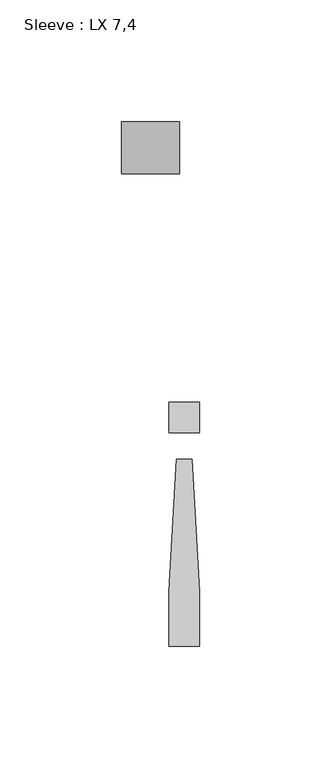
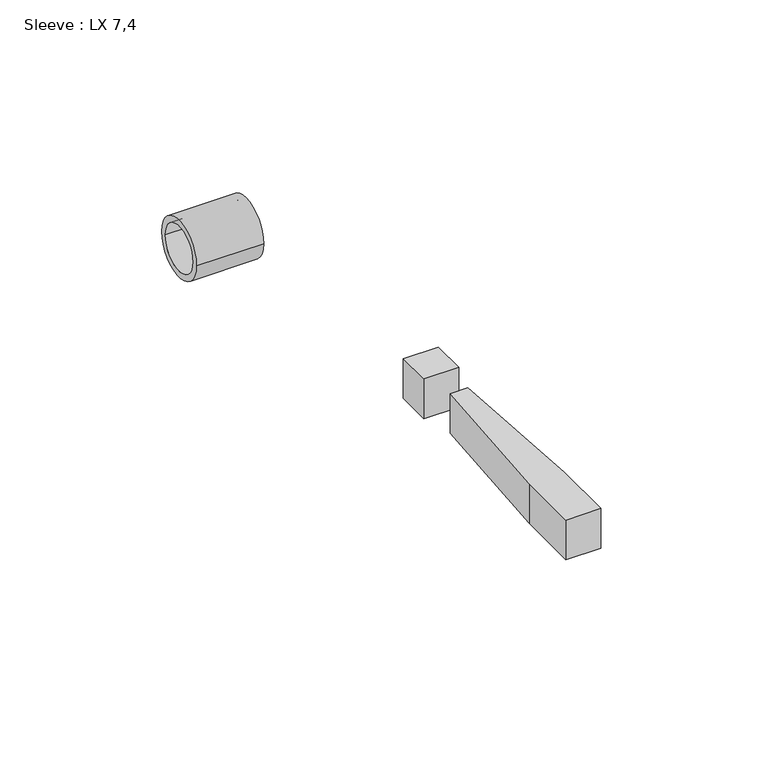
"""IFC4 building model written with IfcOpenShell, lengths in millimetres: pipe fitting geometry, Sleeve : LX 7,4."""

import ifcopenshell
import ifcopenshell.guid

model = None  # the IFC model being written
_history = None  # IfcOwnerHistory: only IFC2X3 demands one
_inside = {}  # id of a spatial element -> (the spatial element, [elements in it])
_under = {}  # id of a project, library or spatial element -> (it, [spatial elements below it])
_declared = {}  # id of a project -> (the project, [libraries it declares])
_typed = {}  # id of a type object -> (the type object, [elements of that type])
_made_of = {}  # id of a material, layer set ... -> (it, [elements and type objects made of it])


def new_model(schema):
    """Start an empty IFC model of exactly this schema.

    Asked for "IFC4X3", IfcOpenShell would pick the latest addendum, in which some entities
    have other attributes; the version numbers below select the first issue.
    IFC2X3 requires an IfcOwnerHistory on every rooted entity: one is made here for all.
    """
    global model, _history
    if schema == "IFC4X3":
        model = ifcopenshell.file(schema_version=(4, 3, 0, 0))
    else:
        model = ifcopenshell.file(schema=schema)
    _inside.clear()
    _under.clear()
    _declared.clear()
    _typed.clear()
    _made_of.clear()
    _history = None
    if model.schema == "IFC2X3":
        org = make("IfcOrganization", Name="unknown")
        user = make(
            "IfcPersonAndOrganization",
            ThePerson=make("IfcPerson", FamilyName="unknown"),
            TheOrganization=org,
        )
        app = make(
            "IfcApplication",
            ApplicationDeveloper=org,
            Version="unknown",
            ApplicationFullName="unknown",
            ApplicationIdentifier="unknown",
        )
        _history = make(
            "IfcOwnerHistory",
            OwningUser=user,
            OwningApplication=app,
            ChangeAction="ADDED",
            CreationDate=0,
        )
    return model


def make(cls, **values):
    """One entity of the class cls with the attributes given. An attribute that is None is left unset."""
    return model.create_entity(
        cls, **{name: value for name, value in values.items() if value is not None}
    )


def rooted(cls, **values):
    """An entity with a GlobalId (a new one), such as an element, a storey or a relation."""
    return make(cls, GlobalId=ifcopenshell.guid.new(), OwnerHistory=_history, **values)


def si_unit(unit_type, name, prefix=None):
    """IfcSIUnit, for example si_unit("LENGTHUNIT", "METRE", prefix="MILLI")."""
    return make("IfcSIUnit", UnitType=unit_type, Prefix=prefix, Name=name)


def assignment(units):
    """IfcUnitAssignment: the units of a project."""
    return None if units is None else make("IfcUnitAssignment", Units=units)


def point(xyz):
    """IfcCartesianPoint."""
    return None if xyz is None else make("IfcCartesianPoint", Coordinates=xyz)


def direction(xyz):
    """IfcDirection."""
    return None if xyz is None else make("IfcDirection", DirectionRatios=xyz)


def frame(location, z_axis=None, x_axis=None):
    """IfcAxis2Placement3D, a coordinate frame: its origin and axes. An axis left out is left unset."""
    return make(
        "IfcAxis2Placement3D",
        Location=point(location),
        Axis=direction(z_axis),
        RefDirection=direction(x_axis),
    )


def frame_2d(location, x_axis=None):
    """IfcAxis2Placement2D, a coordinate frame in the plane: its origin and x axis."""
    return make(
        "IfcAxis2Placement2D", Location=point(location), RefDirection=direction(x_axis)
    )


def origin():
    """The frame at (0, 0, 0) with its axes left unset."""
    return frame((0.0, 0.0, 0.0))


def origin_with_axes():
    """The frame at (0, 0, 0) with the z axis (0, 0, 1) and the x axis (1, 0, 0) written out."""
    return frame((0.0, 0.0, 0.0), z_axis=(0.0, 0.0, 1.0), x_axis=(1.0, 0.0, 0.0))


def origin_2d():
    """The frame at (0, 0) in the plane with its x axis left unset."""
    return frame_2d((0.0, 0.0))


def place(relative_to, where):
    """IfcLocalPlacement: puts the frame where relative to a parent placement (None: the world)."""
    return make(
        "IfcLocalPlacement", PlacementRelTo=relative_to, RelativePlacement=where
    )


def context(
    kind, dimensions, precision=None, world=None, true_north=None, identifier=None
):
    """IfcGeometricRepresentationContext, for example the 3D "Model" context."""
    return make(
        "IfcGeometricRepresentationContext",
        ContextIdentifier=identifier,
        ContextType=kind,
        CoordinateSpaceDimension=dimensions,
        Precision=precision,
        WorldCoordinateSystem=world,
        TrueNorth=true_north,
    )


def project(units=None, contexts=None):
    """IfcProject with its units and contexts."""
    return rooted(
        "IfcProject",
        Name="project",
        RepresentationContexts=contexts,
        UnitsInContext=assignment(units),
    )


def spatial(cls, under=None, at=None, **own):
    """A site, building, storey or space (cls), placed at a placement, below another one or the project."""
    s = rooted(cls, ObjectPlacement=at, **own)
    if under is not None:
        _under.setdefault(under.id(), (under, []))[1].append(s)
    return s


def polyline(points):
    """IfcPolyline through the points."""
    return make("IfcPolyline", Points=[point(p) for p in points])


def circle_curve(where, radius):
    """IfcCircle in the frame where."""
    return make("IfcCircle", Position=where, Radius=radius)


def trimmed(basis, trim1, trim2, sense, master):
    """IfcTrimmedCurve: the piece of a basis curve between two trims."""
    return make(
        "IfcTrimmedCurve",
        BasisCurve=basis,
        Trim1=trim1,
        Trim2=trim2,
        SenseAgreement=sense,
        MasterRepresentation=master,
    )


def segment(curve, same_sense, transition):
    """IfcCompositeCurveSegment."""
    return make(
        "IfcCompositeCurveSegment",
        Transition=transition,
        SameSense=same_sense,
        ParentCurve=curve,
    )


def composite_curve(segments, self_intersect=None):
    """IfcCompositeCurve: segments joined end to end."""
    return make("IfcCompositeCurve", Segments=segments, SelfIntersect=self_intersect)


def outline(outer, holes=None, kind="AREA"):
    """IfcArbitraryClosedProfileDef: a profile drawn as a closed curve; with holes, ...WithVoids."""
    if holes is None:
        return make("IfcArbitraryClosedProfileDef", ProfileType=kind, OuterCurve=outer)
    return make(
        "IfcArbitraryProfileDefWithVoids",
        ProfileType=kind,
        OuterCurve=outer,
        InnerCurves=holes,
    )


def extrude(swept, where, along, depth):
    """IfcExtrudedAreaSolid: the profile swept, set in the frame where, extruded along a direction by depth."""
    return make(
        "IfcExtrudedAreaSolid",
        SweptArea=swept,
        Position=where,
        ExtrudedDirection=direction(along),
        Depth=depth,
    )


def shape(context_of_items, identifier, shape_type, items):
    """IfcShapeRepresentation: the items that make up one representation, for example the "Body"."""
    return make(
        "IfcShapeRepresentation",
        ContextOfItems=context_of_items,
        RepresentationIdentifier=identifier,
        RepresentationType=shape_type,
        Items=items,
    )


def source(mapping_origin, context_of_items, identifier, shape_type, items):
    """IfcRepresentationMap: a shape defined once, which mapped items show again and again."""
    return make(
        "IfcRepresentationMap",
        MappingOrigin=mapping_origin,
        MappedRepresentation=shape(context_of_items, identifier, shape_type, items),
    )


def transform(
    local_origin,
    x_axis=None,
    y_axis=None,
    z_axis=None,
    scale=None,
    scale2=None,
    scale3=None,
    uniform=True,
):
    """IfcCartesianTransformationOperator3D, or its non-uniform kind. x_axis, y_axis, z_axis: its Axis1, 2, 3."""
    if uniform:
        return make(
            "IfcCartesianTransformationOperator3D",
            Axis1=direction(x_axis),
            Axis2=direction(y_axis),
            LocalOrigin=point(local_origin),
            Scale=scale,
            Axis3=direction(z_axis),
        )
    return make(
        "IfcCartesianTransformationOperator3DnonUniform",
        Axis1=direction(x_axis),
        Axis2=direction(y_axis),
        LocalOrigin=point(local_origin),
        Scale=scale,
        Axis3=direction(z_axis),
        Scale2=scale2,
        Scale3=scale3,
    )


def mapped(mapping_source, mapping_target):
    """IfcMappedItem: shows the shape of a source again, moved by a transform."""
    return make(
        "IfcMappedItem", MappingSource=mapping_source, MappingTarget=mapping_target
    )


def made_of(thing, what):
    """Note that an element or type object is made of a material, layer set ...; save() writes the relation."""
    if what is not None:
        _made_of.setdefault(what.id(), (what, []))[1].append(thing)
    return thing


def element(
    cls,
    number,
    at=None,
    inside=None,
    cuts=None,
    type_object=None,
    material=None,
    context=None,
    identifier="Body",
    shape_type=None,
    held_by="IfcProductDefinitionShape",
    body=None,
    shapes=None,
    **own,
):
    """One element of the class cls, such as IfcWall. Its Tag is "e" and its number.

    at: its placement. inside: the storey or other place that contains it. cuts: it is an
    opening in that element (IfcRelVoidsElement). A single representation is given by context,
    identifier, shape_type and body (its items); several are given by shapes. held_by: the class
    of the entity that holds the representations. save() writes the other relations.
    """
    e = rooted(cls, Tag="e%d" % number, ObjectPlacement=at, **own)
    if body is not None:
        shapes = [shape(context, identifier, shape_type, body)]
    if shapes is not None:
        e.Representation = make(held_by, Representations=shapes)
    if inside is not None:
        _inside.setdefault(inside.id(), (inside, []))[1].append(e)
    if cuts is not None:
        rooted(
            "IfcRelVoidsElement", RelatingBuildingElement=cuts, RelatedOpeningElement=e
        )
    if type_object is not None:
        _typed.setdefault(type_object.id(), (type_object, []))[1].append(e)
    return made_of(e, material)


def aggregate(whole, parts):
    """IfcRelAggregates: a whole, such as a stair, and the parts it consists of."""
    return rooted("IfcRelAggregates", RelatingObject=whole, RelatedObjects=parts)


def save(model, path):
    """Write the relations noted so far, then the file.

    IfcRelAggregates (storeys below a building ...), IfcRelContainedInSpatialStructure (elements
    in a storey), IfcRelDefinesByType, IfcRelAssociatesMaterial and IfcRelDeclares: one each for
    every whole, place, type object, material and project.
    """
    for whole, parts in _under.values():
        aggregate(whole, parts)
    for where, things in _inside.values():
        rooted(
            "IfcRelContainedInSpatialStructure",
            RelatedElements=things,
            RelatingStructure=where,
        )
    for kind, things in _typed.values():
        rooted("IfcRelDefinesByType", RelatedObjects=things, RelatingType=kind)
    for what, things in _made_of.values():
        rooted("IfcRelAssociatesMaterial", RelatedObjects=things, RelatingMaterial=what)
    for by, libraries in _declared.values():
        rooted("IfcRelDeclares", RelatingContext=by, RelatedDefinitions=libraries)
    model.write(path)


def sleeve_lx_7_4_d3d6d1e0(model_context):
    return source(origin(), model_context, "Body", "SweptSolid", [
        extrude(outline(composite_curve([segment(trimmed(circle_curve(origin_2d(), 10.75), [point((-10.75, 0.0))], [point((10.75, 0.0))], False, "CARTESIAN"), True, "CONTINUOUS"), segment(trimmed(circle_curve(origin_2d(), 10.75), [point((10.75, 0.0))], [point((-10.75, 0.0))], False, "CARTESIAN"), True, "CONTINUOUS")], self_intersect=False), holes=[composite_curve([segment(trimmed(circle_curve(origin_2d(), 8.45), [point((-8.45, 0.0))], [point((8.45, 0.0))], True, "CARTESIAN"), True, "CONTINUOUS"), segment(trimmed(circle_curve(origin_2d(), 8.45), [point((8.45, 0.0))], [point((-8.45, 0.0))], True, "CARTESIAN"), True, "CONTINUOUS")], self_intersect=False)]), frame((0.0, 0.0, 0.0), z_axis=(1.0, 0.0, 0.0), x_axis=(0.0, 1.0, 0.0)), (0.0, 0.0, 1.0), 24.0),
        extrude(outline(polyline([(29.0579101, -128.2693457), (32.1971697, -182.4951517), (32.1971697, -205.1812081), (19.640131, -205.1812081), (19.640131, -182.4951517), (22.7793907, -128.2693457), (29.0579101, -128.2693457)])), origin_with_axes(), (0.0, 0.0, 1.0), 15.0),
        extrude(outline(polyline([(32.1971697, -104.724898), (32.1971697, -117.2819367), (19.640131, -117.2819367), (19.640131, -104.724898), (32.1971697, -104.724898)])), origin_with_axes(), (0.0, 0.0, 1.0), 15.0),
    ])


if __name__ == "__main__":
    model = new_model("IFC4")
    model_context = context("Model", 3, world=origin())
    ifc_project = project(units=[si_unit("LENGTHUNIT", "METRE", prefix="MILLI")], contexts=[model_context])
    site = spatial("IfcSite", under=ifc_project)
    building = spatial("IfcBuilding", under=site)
    placement = place(None, origin())
    sleeve_lx_7_4_shape = sleeve_lx_7_4_d3d6d1e0(model_context)
    element("IfcPipeFitting", 1, ObjectType="Sleeve : LX 7,4", at=placement, inside=building, context=model_context, shape_type="MappedRepresentation", body=[
        mapped(sleeve_lx_7_4_shape, transform((0.0, 0.0, 0.0), x_axis=(1.0, 0.0, 0.0), y_axis=(0.0, 1.0, 0.0), z_axis=(0.0, 0.0, 1.0))),
    ])
    save(model, "model.ifc")
